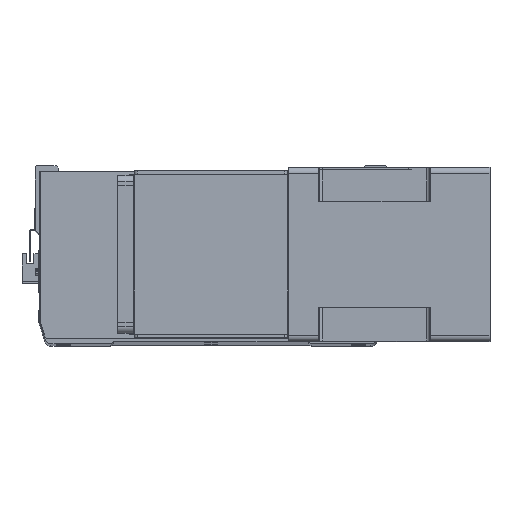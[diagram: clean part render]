
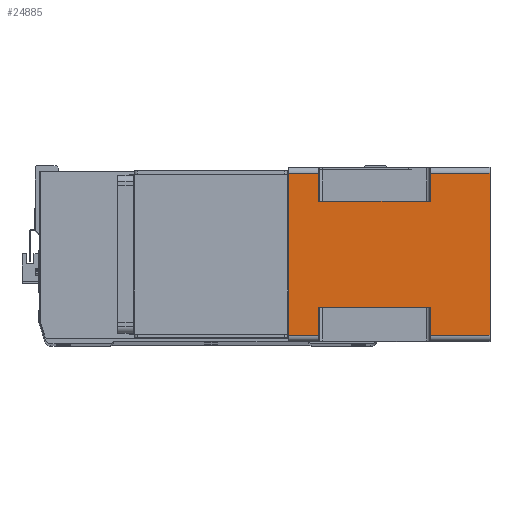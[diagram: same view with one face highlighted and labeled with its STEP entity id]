
A CAD part, top view. The second image highlights one B-rep face of the part: STEP entity #24885.
In plain terms, the highlighted planar face has unit normal (0, 0, 1) as drawn and (1, 0, 0) by its records, which use the part's own axes.
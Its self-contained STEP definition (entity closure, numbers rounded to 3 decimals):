
#51 = CARTESIAN_POINT ( 'NONE',  ( 71., 66., -164. ) ) ;
#742 = LINE ( 'NONE', #17944, #25067 ) ;
#996 = DIRECTION ( 'NONE',  ( 0., 1., 0. ) ) ;
#1104 = EDGE_CURVE ( 'NONE', #23126, #3373, #20164, .T. ) ;
#1232 = DIRECTION ( 'NONE',  ( 0., 0., 1. ) ) ;
#1264 = DIRECTION ( 'NONE',  ( 1., 0., 0. ) ) ;
#1367 = ORIENTED_EDGE ( 'NONE', *, *, #1104, .T. ) ;
#1703 = LINE ( 'NONE', #4734, #9805 ) ;
#1745 = LINE ( 'NONE', #3422, #2823 ) ;
#1906 = DIRECTION ( 'NONE',  ( 0., 0., 1. ) ) ;
#1983 = EDGE_CURVE ( 'NONE', #16155, #26834, #15516, .T. ) ;
#2037 = CARTESIAN_POINT ( 'NONE',  ( 71., -66., -24.5 ) ) ;
#2753 = DIRECTION ( 'NONE',  ( 0., -1., 0. ) ) ;
#2823 = VECTOR ( 'NONE', #7647, 1000. ) ;
#2856 = EDGE_CURVE ( 'NONE', #3843, #7453, #6789, .T. ) ;
#3139 = DIRECTION ( 'NONE',  ( 0., 0., 1. ) ) ;
#3373 = VERTEX_POINT ( 'NONE', #3736 ) ;
#3422 = CARTESIAN_POINT ( 'NONE',  ( 71., 43., -164. ) ) ;
#3736 = CARTESIAN_POINT ( 'NONE',  ( 71., -66., -115.5 ) ) ;
#3843 = VERTEX_POINT ( 'NONE', #24721 ) ;
#4514 = EDGE_CURVE ( 'NONE', #12888, #26110, #1703, .T. ) ;
#4532 = DIRECTION ( 'NONE',  ( 0., 1., 0. ) ) ;
#4734 = CARTESIAN_POINT ( 'NONE',  ( 71., -66., -24.5 ) ) ;
#5946 = ORIENTED_EDGE ( 'NONE', *, *, #15910, .T. ) ;
#6789 = LINE ( 'NONE', #29254, #12277 ) ;
#7136 = DIRECTION ( 'NONE',  ( 0., 0., 1. ) ) ;
#7261 = ORIENTED_EDGE ( 'NONE', *, *, #4514, .T. ) ;
#7453 = VERTEX_POINT ( 'NONE', #10118 ) ;
#7647 = DIRECTION ( 'NONE',  ( 0., 0., -1. ) ) ;
#9667 = CARTESIAN_POINT ( 'NONE',  ( 71., -43., -24.5 ) ) ;
#9705 = EDGE_CURVE ( 'NONE', #23126, #11583, #11100, .T. ) ;
#9800 = ORIENTED_EDGE ( 'NONE', *, *, #14384, .T. ) ;
#9805 = VECTOR ( 'NONE', #4532, 1000. ) ;
#9991 = LINE ( 'NONE', #27718, #12548 ) ;
#10118 = CARTESIAN_POINT ( 'NONE',  ( 71., 66., 0. ) ) ;
#10737 = CARTESIAN_POINT ( 'NONE',  ( 71., 43., -115.5 ) ) ;
#11100 = LINE ( 'NONE', #26792, #28865 ) ;
#11221 = EDGE_CURVE ( 'NONE', #18872, #11583, #18567, .T. ) ;
#11583 = VERTEX_POINT ( 'NONE', #30345 ) ;
#11796 = CARTESIAN_POINT ( 'NONE',  ( 71., -66., -115.5 ) ) ;
#11821 = ORIENTED_EDGE ( 'NONE', *, *, #24036, .F. ) ;
#12277 = VECTOR ( 'NONE', #22528, 1000. ) ;
#12481 = ORIENTED_EDGE ( 'NONE', *, *, #26340, .F. ) ;
#12548 = VECTOR ( 'NONE', #23285, 1000. ) ;
#12888 = VERTEX_POINT ( 'NONE', #23524 ) ;
#14384 = EDGE_CURVE ( 'NONE', #19541, #16155, #29676, .T. ) ;
#14550 = CARTESIAN_POINT ( 'NONE',  ( 71., -66., -164. ) ) ;
#15170 = CARTESIAN_POINT ( 'NONE',  ( 71., 66., -24.5 ) ) ;
#15240 = DIRECTION ( 'NONE',  ( 0., 1., 0. ) ) ;
#15516 = LINE ( 'NONE', #51, #28831 ) ;
#15583 = VECTOR ( 'NONE', #1906, 1000. ) ;
#15910 = EDGE_CURVE ( 'NONE', #26834, #30207, #742, .T. ) ;
#16155 = VERTEX_POINT ( 'NONE', #21564 ) ;
#16454 = ORIENTED_EDGE ( 'NONE', *, *, #11221, .T. ) ;
#16741 = DIRECTION ( 'NONE',  ( 0., 1., 0. ) ) ;
#17380 = EDGE_CURVE ( 'NONE', #26110, #7453, #9991, .T. ) ;
#17602 = CARTESIAN_POINT ( 'NONE',  ( 71., 66., -115.5 ) ) ;
#17944 = CARTESIAN_POINT ( 'NONE',  ( 71., 43., -115.5 ) ) ;
#18050 = DIRECTION ( 'NONE',  ( 0., -1., 0. ) ) ;
#18567 = LINE ( 'NONE', #9667, #30377 ) ;
#18872 = VERTEX_POINT ( 'NONE', #2037 ) ;
#19310 = EDGE_CURVE ( 'NONE', #12888, #30207, #1745, .T. ) ;
#19541 = VERTEX_POINT ( 'NONE', #14550 ) ;
#19815 = FACE_OUTER_BOUND ( 'NONE', #28500, .T. ) ;
#20164 = LINE ( 'NONE', #11796, #27927 ) ;
#20280 = ORIENTED_EDGE ( 'NONE', *, *, #2856, .F. ) ;
#21564 = CARTESIAN_POINT ( 'NONE',  ( 71., 66., -164. ) ) ;
#21585 = VECTOR ( 'NONE', #996, 1000. ) ;
#21883 = LINE ( 'NONE', #25802, #15583 ) ;
#22363 = CARTESIAN_POINT ( 'NONE',  ( 71., -43., -115.5 ) ) ;
#22517 = LINE ( 'NONE', #29230, #28064 ) ;
#22528 = DIRECTION ( 'NONE',  ( 0., 1., 0. ) ) ;
#22571 = PLANE ( 'NONE',  #29111 ) ;
#23126 = VERTEX_POINT ( 'NONE', #22363 ) ;
#23202 = ORIENTED_EDGE ( 'NONE', *, *, #9705, .F. ) ;
#23285 = DIRECTION ( 'NONE',  ( 0., 0., 1. ) ) ;
#23524 = CARTESIAN_POINT ( 'NONE',  ( 71., 43., -24.5 ) ) ;
#23790 = ORIENTED_EDGE ( 'NONE', *, *, #19310, .F. ) ;
#24036 = EDGE_CURVE ( 'NONE', #18872, #3843, #22517, .T. ) ;
#24721 = CARTESIAN_POINT ( 'NONE',  ( 71., -66., 0. ) ) ;
#24885 = ADVANCED_FACE ( 'NONE', ( #19815 ), #22571, .T. ) ;
#24943 = CARTESIAN_POINT ( 'NONE',  ( 71., -66., -164. ) ) ;
#25067 = VECTOR ( 'NONE', #18050, 1000. ) ;
#25802 = CARTESIAN_POINT ( 'NONE',  ( 71., -66., -164. ) ) ;
#25849 = ORIENTED_EDGE ( 'NONE', *, *, #1983, .T. ) ;
#26110 = VERTEX_POINT ( 'NONE', #15170 ) ;
#26340 = EDGE_CURVE ( 'NONE', #19541, #3373, #21883, .T. ) ;
#26792 = CARTESIAN_POINT ( 'NONE',  ( 71., -43., -164. ) ) ;
#26834 = VERTEX_POINT ( 'NONE', #17602 ) ;
#26871 = CARTESIAN_POINT ( 'NONE',  ( 71., -66., -164. ) ) ;
#27231 = ORIENTED_EDGE ( 'NONE', *, *, #17380, .T. ) ;
#27718 = CARTESIAN_POINT ( 'NONE',  ( 71., 66., -164. ) ) ;
#27927 = VECTOR ( 'NONE', #2753, 1000. ) ;
#28064 = VECTOR ( 'NONE', #3139, 1000. ) ;
#28500 = EDGE_LOOP ( 'NONE', ( #23202, #1367, #12481, #9800, #25849, #5946, #23790, #7261, #27231, #20280, #11821, #16454 ) ) ;
#28831 = VECTOR ( 'NONE', #7136, 1000. ) ;
#28865 = VECTOR ( 'NONE', #1232, 1000. ) ;
#29111 = AXIS2_PLACEMENT_3D ( 'NONE', #24943, #1264, #15240 ) ;
#29230 = CARTESIAN_POINT ( 'NONE',  ( 71., -66., -164. ) ) ;
#29254 = CARTESIAN_POINT ( 'NONE',  ( 71., -66., 0. ) ) ;
#29676 = LINE ( 'NONE', #26871, #21585 ) ;
#30207 = VERTEX_POINT ( 'NONE', #10737 ) ;
#30345 = CARTESIAN_POINT ( 'NONE',  ( 71., -43., -24.5 ) ) ;
#30377 = VECTOR ( 'NONE', #16741, 1000. ) ;
